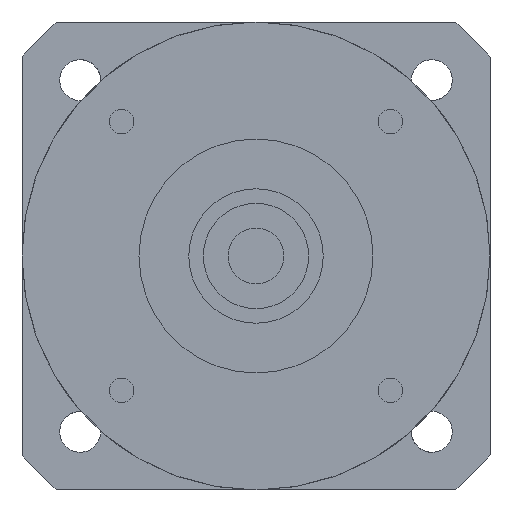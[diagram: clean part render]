
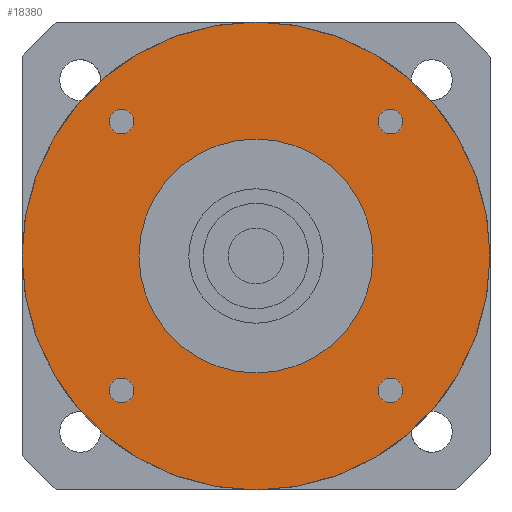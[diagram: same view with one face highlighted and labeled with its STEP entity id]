
A CAD part, left-side view. The second image highlights one B-rep face of the part: STEP entity #18380.
In plain terms, the highlighted planar face has unit normal (-1, 0, 0) as drawn and (0, 0, -1) by its records, which use the part's own axes.
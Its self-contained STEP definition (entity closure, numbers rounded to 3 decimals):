
#13680=CARTESIAN_POINT('',(-25.081,-22.981,-42.));
#13690=VERTEX_POINT('',#13680);
#13870=CARTESIAN_POINT('',(-20.881,-22.981,-42.));
#13880=VERTEX_POINT('',#13870);
#13910=CARTESIAN_POINT('',(-22.981,-22.981,-42.));
#13920=DIRECTION('',(0.,0.,-1.));
#13930=DIRECTION('',(1.,0.,0.));
#13940=AXIS2_PLACEMENT_3D('',#13910,#13920,#13930);
#13950=CIRCLE('',#13940,2.1);
#13960=EDGE_CURVE('',#13690,#13880,#13950,.T.);
#17400=CARTESIAN_POINT('',(-40.,0.,-42.));
#17410=VERTEX_POINT('',#17400);
#17440=CARTESIAN_POINT('',(0.,0.,-42.));
#17450=DIRECTION('',(0.,0.,-1.));
#17460=DIRECTION('',(1.,0.,0.));
#17470=AXIS2_PLACEMENT_3D('',#17440,#17450,#17460);
#17480=CIRCLE('',#17470,40.);
#17490=CARTESIAN_POINT('',(40.,0.,-42.));
#17500=VERTEX_POINT('',#17490);
#17510=EDGE_CURVE('',#17410,#17500,#17480,.T.);
#17630=CARTESIAN_POINT('',(0.,0.,-42.));
#17640=DIRECTION('',(0.,0.,1.));
#17650=DIRECTION('',(1.,0.,0.));
#17660=AXIS2_PLACEMENT_3D('',#17630,#17640,#17650);
#17670=PLANE('',#17660);
#17680=CARTESIAN_POINT('',(-22.981,22.981,-42.));
#17690=DIRECTION('',(0.,0.,-1.));
#17700=DIRECTION('',(1.,0.,0.));
#17710=AXIS2_PLACEMENT_3D('',#17680,#17690,#17700);
#17720=CIRCLE('',#17710,2.1);
#17730=CARTESIAN_POINT('',(-20.881,22.981,-42.));
#17740=VERTEX_POINT('',#17730);
#17750=CARTESIAN_POINT('',(-25.081,22.981,-42.));
#17760=VERTEX_POINT('',#17750);
#17770=EDGE_CURVE('',#17740,#17760,#17720,.T.);
#17780=ORIENTED_EDGE('',*,*,#17770,.F.);
#17790=EDGE_CURVE('',#17760,#17740,#17720,.T.);
#17800=ORIENTED_EDGE('',*,*,#17790,.F.);
#17810=EDGE_LOOP('',(#17800,#17780));
#17820=FACE_BOUND('',#17810,.T.);
#17830=CARTESIAN_POINT('',(22.981,22.981,-42.));
#17840=DIRECTION('',(0.,0.,-1.));
#17850=DIRECTION('',(1.,0.,0.));
#17860=AXIS2_PLACEMENT_3D('',#17830,#17840,#17850);
#17870=CIRCLE('',#17860,2.1);
#17880=CARTESIAN_POINT('',(25.081,22.981,-42.));
#17890=VERTEX_POINT('',#17880);
#17900=CARTESIAN_POINT('',(20.881,22.981,-42.));
#17910=VERTEX_POINT('',#17900);
#17920=EDGE_CURVE('',#17890,#17910,#17870,.T.);
#17930=ORIENTED_EDGE('',*,*,#17920,.F.);
#17940=EDGE_CURVE('',#17910,#17890,#17870,.T.);
#17950=ORIENTED_EDGE('',*,*,#17940,.F.);
#17960=EDGE_LOOP('',(#17950,#17930));
#17970=FACE_BOUND('',#17960,.T.);
#17980=CARTESIAN_POINT('',(22.981,-22.981,-42.));
#17990=DIRECTION('',(0.,0.,-1.));
#18000=DIRECTION('',(1.,0.,0.));
#18010=AXIS2_PLACEMENT_3D('',#17980,#17990,#18000);
#18020=CIRCLE('',#18010,2.1);
#18030=CARTESIAN_POINT('',(25.081,-22.981,-42.));
#18040=VERTEX_POINT('',#18030);
#18050=CARTESIAN_POINT('',(20.881,-22.981,-42.));
#18060=VERTEX_POINT('',#18050);
#18070=EDGE_CURVE('',#18040,#18060,#18020,.T.);
#18080=ORIENTED_EDGE('',*,*,#18070,.F.);
#18090=EDGE_CURVE('',#18060,#18040,#18020,.T.);
#18100=ORIENTED_EDGE('',*,*,#18090,.F.);
#18110=EDGE_LOOP('',(#18100,#18080));
#18120=FACE_BOUND('',#18110,.T.);
#18130=CARTESIAN_POINT('',(0.,0.,
-42.));
#18140=DIRECTION('',(0.,0.,1.));
#18150=DIRECTION('',(-1.,0.,0.));
#18160=AXIS2_PLACEMENT_3D('',#18130,#18140,#18150);
#18170=CIRCLE('',#18160,20.);
#18180=CARTESIAN_POINT('',(-20.,0.,-42.));
#18190=VERTEX_POINT('',#18180);
#18200=CARTESIAN_POINT('',(20.,0.,-42.));
#18210=VERTEX_POINT('',#18200);
#18220=EDGE_CURVE('',#18190,#18210,#18170,.T.);
#18230=ORIENTED_EDGE('',*,*,#18220,.T.);
#18240=EDGE_CURVE('',#18210,#18190,#18170,.T.);
#18250=ORIENTED_EDGE('',*,*,#18240,.T.);
#18260=EDGE_LOOP('',(#18250,#18230));
#18270=FACE_BOUND('',#18260,.T.);
#18280=EDGE_CURVE('',#13880,#13690,#13950,.T.);
#18290=ORIENTED_EDGE('',*,*,#18280,.F.);
#18300=ORIENTED_EDGE('',*,*,#13960,.F.);
#18310=EDGE_LOOP('',(#18300,#18290));
#18320=FACE_BOUND('',#18310,.T.);
#18330=EDGE_CURVE('',#17500,#17410,#17480,.T.);
#18340=ORIENTED_EDGE('',*,*,#18330,.T.);
#18350=ORIENTED_EDGE('',*,*,#17510,.T.);
#18360=EDGE_LOOP('',(#18350,#18340));
#18370=FACE_OUTER_BOUND('',#18360,.T.);
#18380=ADVANCED_FACE('',(#17820,#17970,#18120,#18270,#18320,#18370),
#17670,.F.);
